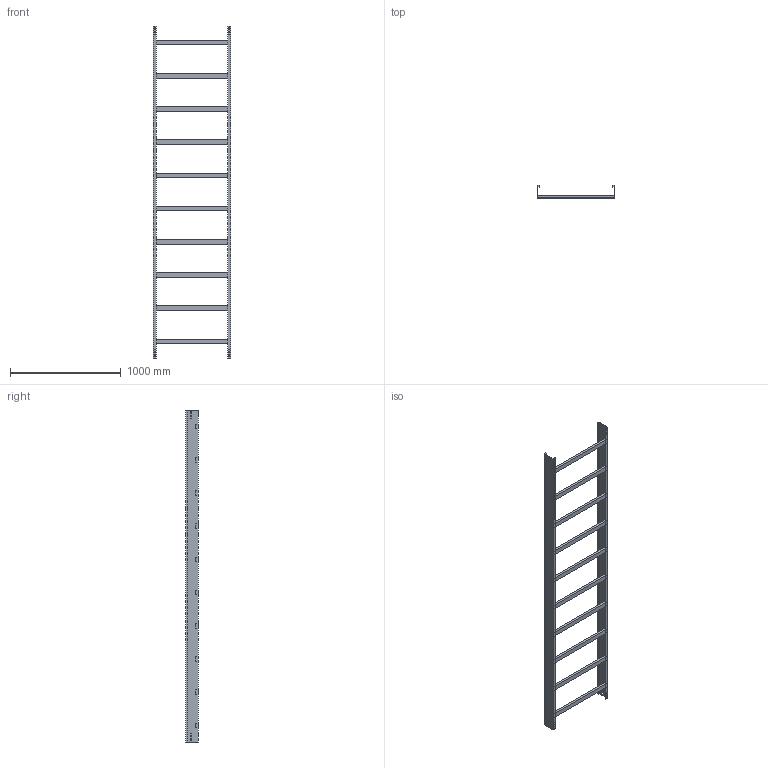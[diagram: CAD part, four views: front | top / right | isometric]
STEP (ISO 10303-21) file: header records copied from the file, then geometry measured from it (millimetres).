
FILE_DESCRIPTION (( 'STEP AP214' ), '1' );
FILE_NAME ('01B3J700.step', '2025-02-21T16:00:28', ( '' ), ( '' ), 'SwSTEP 2.0', 'SolidWorks 2023', '' );
FILE_SCHEMA (( 'AUTOMOTIVE_DESIGN' ));
Length unit declared in the file: millimetre
Products named in the file (3): 01B3J700; TRAVERSINO_700; LONGH.H112.5
Assembly tree (12 placements, depth 2):
  01B3J700
    LONGH.H112.5  x2
    TRAVERSINO_700  x10
Bounding box: 700 x 112.5 x 3000 mm (x, y, z)
Volume: 8434672 mm3; surface area: 2723156 mm2
Topology: 12 solids, 12 shells, 144 faces, 360 edges, 240 vertices
Faces by surface type: plane 144
Entity records: 1696 total; most frequent: CARTESIAN_POINT 283, ORIENTED_EDGE 264, DIRECTION 258, LINE 132, EDGE_CURVE 132, VECTOR 132, VERTEX_POINT 88, EDGE_LOOP 64
